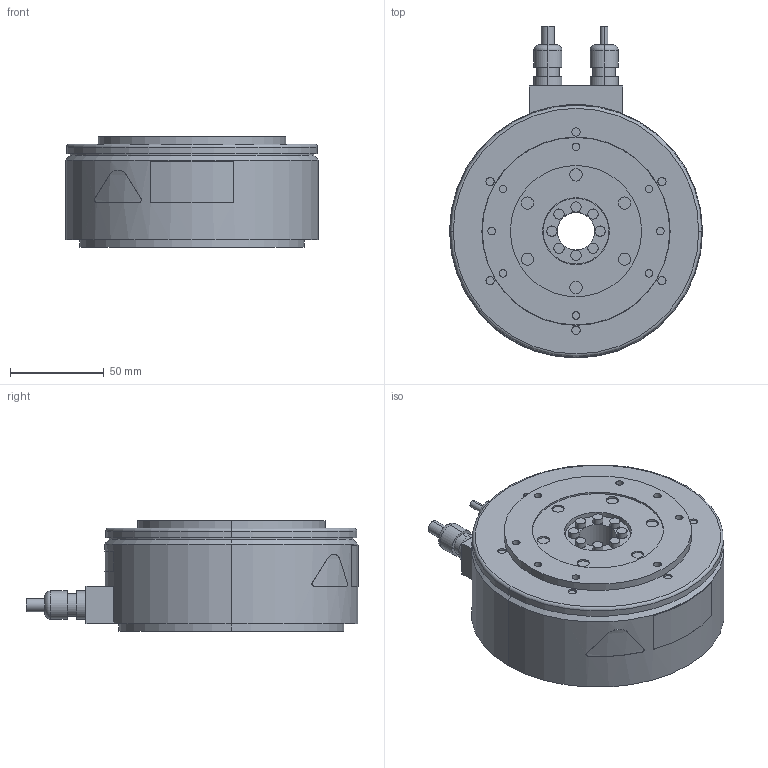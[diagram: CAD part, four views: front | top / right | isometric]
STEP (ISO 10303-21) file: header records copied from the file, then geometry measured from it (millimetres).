
FILE_DESCRIPTION (( 'STEP AP203' ), '1' );
FILE_NAME ('sgm7e_02b_a4_.STEP', '2016-06-02T07:31:45', ( '' ), ( '' ), 'SwSTEP 2.0', 'SolidWorks 2010', '' );
FILE_SCHEMA (( 'CONFIG_CONTROL_DESIGN' ));
Length unit declared in the file: millimetre
Products named in the file (1): sgm7e_02b_a4_
Bounding box: 135 x 177.1 x 59 mm (x, y, z)
Volume: 796078.2 mm3; surface area: 64637.5 mm2
Topology: 1 solids, 1 shells, 228 faces, 468 edges, 308 vertices
Faces by surface type: cylinder 134, plane 79, torus 6, bspline 5, cone 4
Entity records: 6835 total; most frequent: CARTESIAN_POINT 1670, DIRECTION 1188, ORIENTED_EDGE 936, AXIS2_PLACEMENT_3D 512, EDGE_CURVE 468, VERTEX_POINT 308, EDGE_LOOP 296, CIRCLE 288
